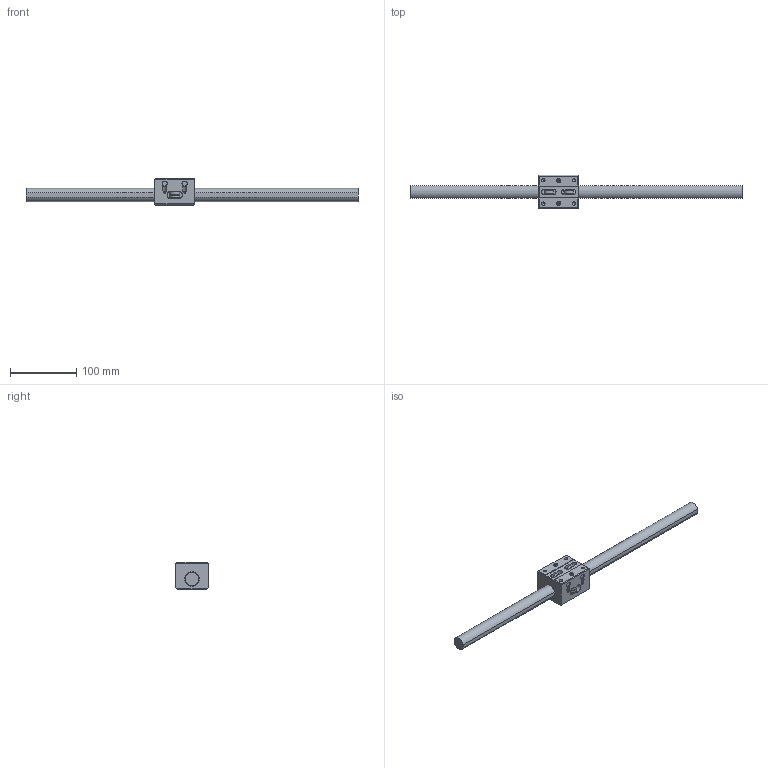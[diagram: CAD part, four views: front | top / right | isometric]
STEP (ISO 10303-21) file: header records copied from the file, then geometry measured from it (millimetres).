
FILE_DESCRIPTION((''),'2;1');
FILE_NAME('D:\製品 (図面)\カタログ用3D\リニアガイド関連\STEP形式\LT\LT20.stp','2010-06-02T16:04:49',('Tsuchiya'),(''),'Autodesk Inventor 10','Autodesk Inventor 10','');
FILE_SCHEMA(('AUTOMOTIVE_DESIGN { 1 0 10303 214 1 1 1 1 }'));
Length unit declared in the file: millimetre
Products named in the file (3): LT20; LT201; LT202
Assembly tree (2 placements, depth 2):
  LT20
    LT201
    LT202
Bounding box: 500 x 50 x 41 mm (x, y, z)
Volume: 238737.5 mm3; surface area: 59915.7 mm2
Topology: 2 solids, 2 shells, 241 faces, 572 edges, 368 vertices
Faces by surface type: bspline 98, plane 75, cylinder 38, cone 26, torus 4
Full cylindrical faces by diameter (mm): 4.917 x2, 5 x4, 5.5 x4, 6.5 x4, 8 x5, 14 x3, 15 x2, 16 x2, 22 x1
Entity records: 7570 total; most frequent: CARTESIAN_POINT 2955, ORIENTED_EDGE 856, DIRECTION 818, EDGE_CURVE 428, EDGE_LOOP 402, VERTEX_POINT 326, AXIS2_PLACEMENT_3D 316, FACE_OUTER_BOUND 241
